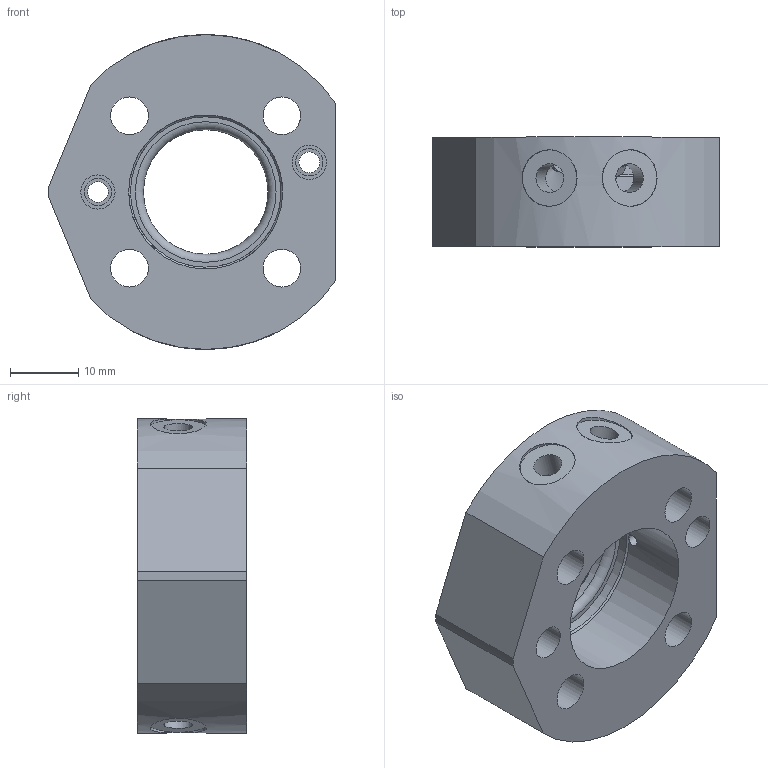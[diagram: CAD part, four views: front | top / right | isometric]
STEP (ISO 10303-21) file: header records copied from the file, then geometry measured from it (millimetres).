
FILE_DESCRIPTION (( 'STEP AP214' ), '1' );
FILE_NAME ('1507-D67A REV00.STEP', '2019-06-28T18:20:52', ( '' ), ( '' ), 'SwSTEP 2.0', 'SolidWorks 2019', '' );
FILE_SCHEMA (( 'AUTOMOTIVE_DESIGN' ));
Length unit declared in the file: millimetre
Products named in the file (4): 1507-D68N; 1507-C76N; 49429; 1507-D67A REV00
Assembly tree (4 placements, depth 2):
  1507-D67A REV00
    1507-D68N
    1507-C76N
    49429  x2
Bounding box: 42 x 16 x 46 mm (x, y, z)
Volume: 15474.1 mm3; surface area: 9174.7 mm2
Topology: 4 solids, 4 shells, 89 faces, 197 edges, 128 vertices
Faces by surface type: cylinder 45, plane 26, cone 14, torus 4
Full cylindrical faces by diameter (mm): 1.5 x1, 1.75 x1, 2.5 x2, 2.563 x2, 2.7 x4, 3.025 x2, 4 x2, 4.2 x4, 5 x2, 5.5 x4, 5.996 x2, 6.023 x2, 8.25 x4, 9 x4, 18.19 x1, 18.24 x1, 21.98 x1, 21.994 x1, 22.5 x1
Entity records: 2834 total; most frequent: CARTESIAN_POINT 938, DIRECTION 364, ORIENTED_EDGE 252, AXIS2_PLACEMENT_3D 175, EDGE_LOOP 175, EDGE_CURVE 126, FACE_OUTER_BOUND 124, VERTEX_POINT 107
